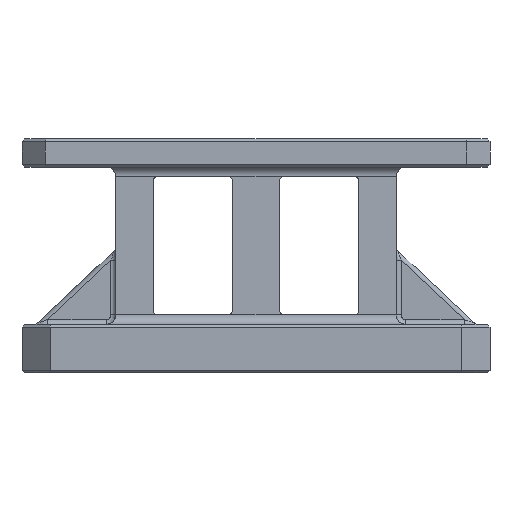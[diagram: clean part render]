
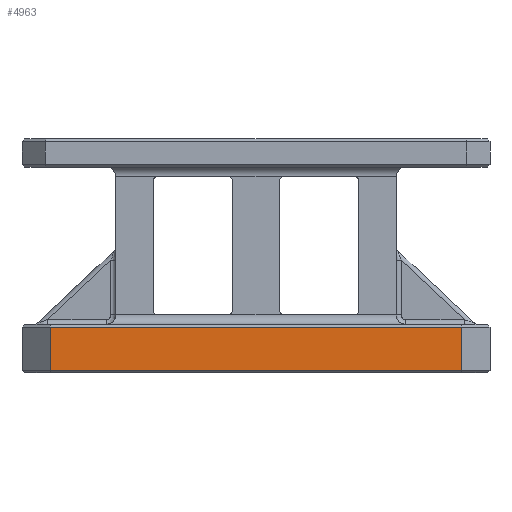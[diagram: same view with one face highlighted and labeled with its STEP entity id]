
A CAD part, front view. The second image highlights one B-rep face of the part: STEP entity #4963.
In plain terms, the highlighted planar face has unit normal (0, -1, 0).
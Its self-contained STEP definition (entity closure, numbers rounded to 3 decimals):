
#573=DIRECTION('',(-1.,0.,0.));
#574=VECTOR('',#573,440.);
#575=CARTESIAN_POINT('',(220.,-250.,-23.));
#576=LINE('',#575,#574);
#577=DIRECTION('',(0.,0.,-1.));
#578=VECTOR('',#577,46.);
#579=CARTESIAN_POINT('',(-220.,-250.,23.));
#580=LINE('',#579,#578);
#581=DIRECTION('',(1.,0.,0.));
#582=VECTOR('',#581,440.);
#583=CARTESIAN_POINT('',(-220.,-250.,23.));
#584=LINE('',#583,#582);
#585=DIRECTION('',(0.,0.,-1.));
#586=VECTOR('',#585,46.);
#587=CARTESIAN_POINT('',(220.,-250.,23.));
#588=LINE('',#587,#586);
#3534=CARTESIAN_POINT('',(220.,-250.,-23.));
#3536=VERTEX_POINT('',#3534);
#3537=CARTESIAN_POINT('',(-220.,-250.,-23.));
#3538=VERTEX_POINT('',#3537);
#3585=CARTESIAN_POINT('',(220.,-250.,23.));
#3586=VERTEX_POINT('',#3585);
#3591=CARTESIAN_POINT('',(-220.,-250.,23.));
#3592=VERTEX_POINT('',#3591);
#4950=CARTESIAN_POINT('',(-250.,-250.,-26.));
#4951=DIRECTION('',(0.,-1.,0.));
#4952=DIRECTION('',(1.,0.,0.));
#4953=AXIS2_PLACEMENT_3D('',#4950,#4951,#4952);
#4954=PLANE('',#4953);
#4955=ORIENTED_EDGE('',*,*,#4941,.T.);
#4957=ORIENTED_EDGE('',*,*,#4956,.F.);
#4959=ORIENTED_EDGE('',*,*,#4958,.T.);
#4960=ORIENTED_EDGE('',*,*,#4915,.T.);
#4961=EDGE_LOOP('',(#4955,#4957,#4959,#4960));
#4962=FACE_OUTER_BOUND('',#4961,.F.);
#4963=ADVANCED_FACE('',(#4962),#4954,.T.);
#4915=EDGE_CURVE('',#3586,#3536,#588,.T.);
#4941=EDGE_CURVE('',#3536,#3538,#576,.T.);
#4956=EDGE_CURVE('',#3592,#3538,#580,.T.);
#4958=EDGE_CURVE('',#3592,#3586,#584,.T.);
